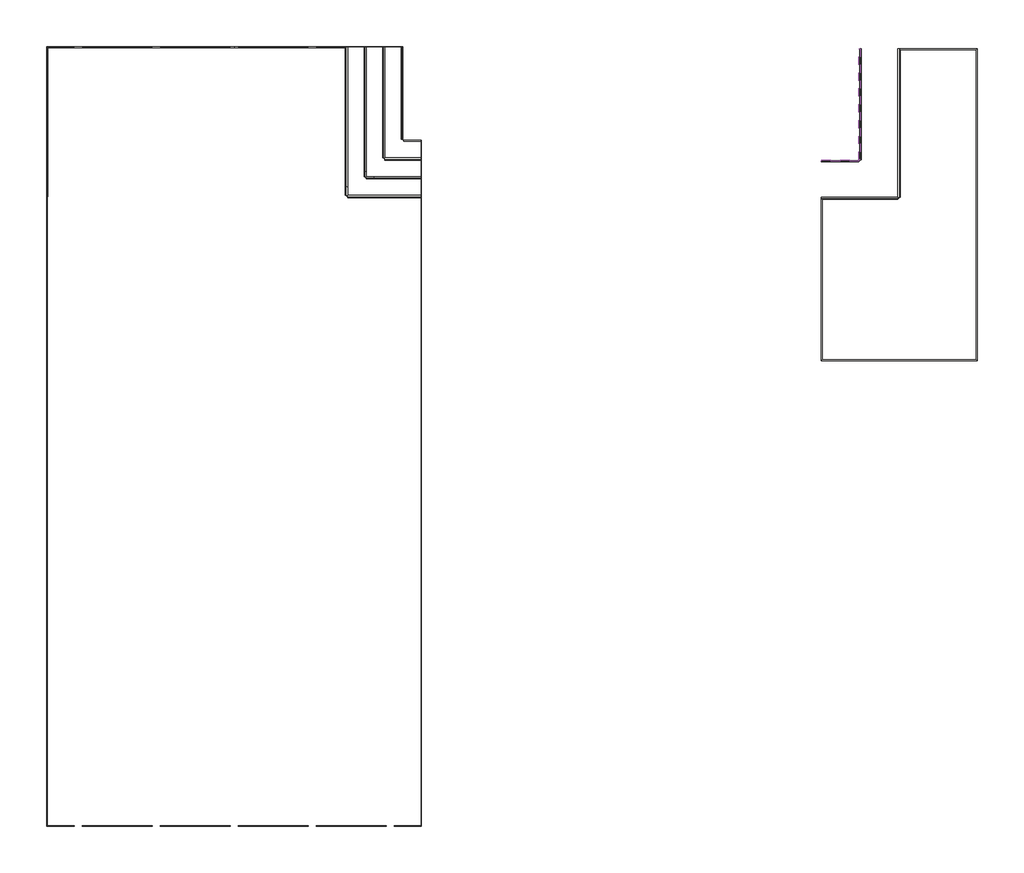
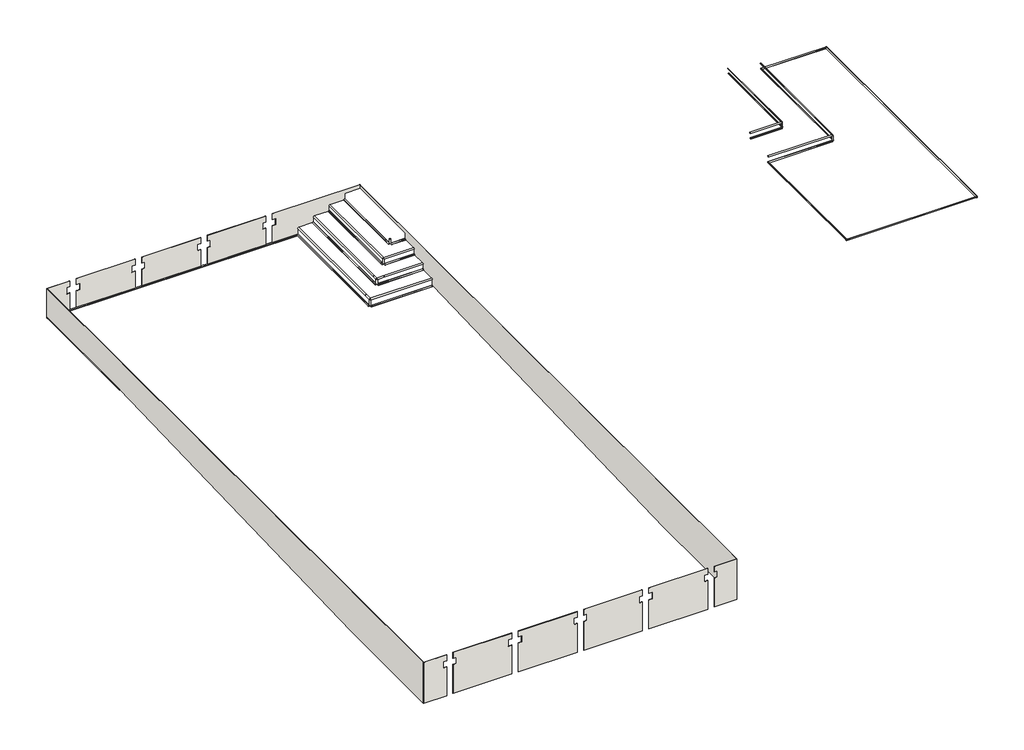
# One storey: 42 slabs, 4 walls.
"""IFC4 building model written with IfcOpenShell, lengths in millimetres."""

from ifc_helpers import new_model, si_unit, frame, origin, place, context, project, spatial, polyline, circle_curve, outline, extrude, faceted_brep, transform, mapped, element, save
from ifc_brep_helpers import plane_surface, revolved_surface, advanced_brep
from components import slab_68191908, slab_0b7f0033, slab_426d9eff, slab_d9ea31a1, slab_8877062a, slab_78a21326, slab_76e353b1, slab_188b37af, slab_594135eb, slab_b2810ed7, slab_a58539a0, slab_c8dc17a9, slab_b4be717a, slab_a5006e50, slab_b4716e6a, slab_d9e7cd34, slab_4b10cbd3, slab_bd4ad2bb, slab_5eb582c5, slab_a584c216, slab_de9ef0ad, slab_e5be7060, slab_870bf23e, slab_de703868, slab_17efec83, slab_f88066db, slab_389d30d9, slab_20e46eeb, slab_4c87a440, slab_b74d65db, slab_c2029d90, pieza_112_aqua_blanco_liso_c1875763, pieza_112_aqua_blanco_liso_16c1217e, pieza_112_aqua_blanco_liso_2d5796d6, pieza_112_aqua_blanco_liso_455163e1, pieza_112_aqua_blanco_liso_b51737e8, pieza_112_aqua_blanco_liso_a29e3cf4, pieza_112_aqua_blanco_liso_38657134

model = new_model("IFC4")

# Units and contexts
model_context = context("Model", 3, world=origin())
ifc_project = project(units=[si_unit("LENGTHUNIT", "METRE", prefix="MILLI")], contexts=[model_context])

# Site, building, storey
site = spatial("IfcSite", under=ifc_project)
building = spatial("IfcBuilding", under=site)
storey = spatial("IfcBuildingStorey", under=building, Name="3_NFondo1P1 -1.50", Elevation=-1500.0)

# Slabs
placement = place(None, origin())
slab_shape = slab_68191908(model_context)
element("IfcSlab", 1, ObjectType="ROSA GRES_112 : Pieza 112_Aqua_Plomo_Liso", at=placement, inside=storey, context=model_context, shape_type="MappedRepresentation", body=[
    mapped(slab_shape, transform((20973.8701143, 19983.4044735, -709.9734114), x_axis=(-1.0, 0.0, 0.0), y_axis=(0.0, -1.0, 0.0), z_axis=(0.0, 0.0, 1.0))),
])
slab_2_shape = slab_0b7f0033(model_context)
element("IfcSlab", 2, ObjectType="ROSA GRES_112 : Pieza 112_Aqua_Plomo_Liso", at=placement, inside=storey, context=model_context, shape_type="MappedRepresentation", body=[
    mapped(slab_2_shape, transform((21003.8967029, 24783.4044735, -709.9734114), x_axis=(0.0, -1.0, 0.0), y_axis=(1.0, 0.0, 0.0), z_axis=(0.0, 0.0, 1.0))),
])
slab_3_shape = slab_426d9eff(model_context)
element("IfcSlab", 3, ObjectType="ROSA GRES_138 : Pieza 138_Aqua_Plomo_Anti-Slip", at=placement, inside=storey, context=model_context, shape_type="MappedRepresentation", body=[
    mapped(slab_3_shape, transform((5680.0677212, 21276.3926616, -490.0), x_axis=(-1.0, 0.0, 0.0), y_axis=(0.0, -1.0, 0.0), z_axis=(0.0, 0.0, 1.0))),
])
slab_4_shape = slab_d9ea31a1(model_context)
element("IfcSlab", 4, ObjectType="ROSA GRES_138 : Pieza 138_Aqua_Plomo_Anti-Slip", at=placement, inside=storey, context=model_context, shape_type="MappedRepresentation", body=[
    mapped(slab_4_shape, transform((4520.0677212, 24836.3926616, -490.0), x_axis=(0.0, -1.0, 0.0), y_axis=(0.0, 0.0, 1.0), z_axis=(-1.0, 0.0, 0.0))),
])
element("IfcSlab", 5, ObjectType="ROSA GRES_138 : Pieza 138_Aqua_Plomo_Anti-Slip", at=placement, inside=storey, context=model_context, shape_type="MappedRepresentation", body=[
    mapped(slab_4_shape, transform((19723.8701143, 21213.4310621, -265.0), x_axis=(0.0, 1.0, 0.0), y_axis=(0.0, 0.0, 1.0), z_axis=(1.0, 0.0, 0.0))),
])
slab_5_shape = slab_8877062a(model_context)
element("IfcSlab", 6, ObjectType="ROSA GRES_138 : Pieza 138_Aqua_Plomo_Anti-Slip", at=placement, inside=storey, context=model_context, shape_type="MappedRepresentation", body=[
    mapped(slab_5_shape, transform((4181.2009319, 20676.3926616, -740.0), x_axis=(1.0, 0.0, 0.0), y_axis=(0.0, 0.0, 1.0), z_axis=(0.0, -1.0, 0.0))),
])
slab_6_shape = slab_78a21326(model_context)
element("IfcSlab", 7, ObjectType="ROSA GRES_138 : Pieza 138_Aqua_Plomo_Anti-Slip", at=placement, inside=storey, context=model_context, shape_type="MappedRepresentation", body=[
    mapped(slab_6_shape, transform((3920.0677212, 20676.3926616, -740.0), x_axis=(1.0, 0.0, 0.0), y_axis=(0.0, 0.0, 1.0), z_axis=(0.0, -1.0, 0.0))),
])
slab_7_shape = slab_76e353b1(model_context)
element("IfcSlab", 8, ObjectType="ROSA GRES_138 : Pieza 138_Aqua_Plomo_Anti-Slip", at=placement, inside=storey, context=model_context, shape_type="MappedRepresentation", body=[
    mapped(slab_7_shape, transform((3320.0677212, 20076.3926616, -990.0), x_axis=(1.0, 0.0, 0.0), y_axis=(0.0, 0.0, 1.0), z_axis=(0.0, -1.0, 0.0))),
])
slab_8_shape = slab_188b37af(model_context)
element("IfcSlab", 9, ObjectType="ROSA GRES_138 : Pieza 138_Aqua_Plomo_Anti-Slip", at=placement, inside=storey, context=model_context, shape_type="MappedRepresentation", body=[
    mapped(slab_8_shape, transform((3920.0677212, 20846.3926616, -740.0), x_axis=(0.0, 1.0, 0.0), y_axis=(-1.0, 0.0, 0.0), z_axis=(0.0, 0.0, 1.0))),
])
slab_9_shape = slab_594135eb(model_context)
element("IfcSlab", 10, ObjectType="ROSA GRES_138 : Pieza 138_Aqua_Plomo_Anti-Slip", at=placement, inside=storey, context=model_context, shape_type="MappedRepresentation", body=[
    mapped(slab_9_shape, transform((3920.0677212, 20676.3926616, -740.0), x_axis=(0.0, 1.0, 0.0), y_axis=(-1.0, 0.0, 0.0), z_axis=(0.0, 0.0, 1.0))),
])
slab_10_shape = slab_b2810ed7(model_context)
element("IfcSlab", 11, ObjectType="ROSA GRES_138 : Pieza 138_Aqua_Plomo_Anti-Slip", at=placement, inside=storey, context=model_context, shape_type="MappedRepresentation", body=[
    mapped(slab_10_shape, transform((3320.0677212, 20344.8918276, -990.0), x_axis=(0.0, 1.0, 0.0), y_axis=(-1.0, 0.0, 0.0), z_axis=(0.0, 0.0, 1.0))),
])
slab_11_shape = slab_a58539a0(model_context)
element("IfcSlab", 12, ObjectType="ROSA GRES_138 : Pieza 138_Aqua_Plomo_Anti-Slip", at=placement, inside=storey, context=model_context, shape_type="MappedRepresentation", body=[
    mapped(slab_11_shape, transform((3320.0677212, 20076.3926616, -990.0), x_axis=(0.0, 1.0, 0.0), y_axis=(-1.0, 0.0, 0.0), z_axis=(0.0, 0.0, 1.0))),
])
slab_12_shape = slab_c8dc17a9(model_context)
element("IfcSlab", 13, ObjectType="ROSA GRES_138 : Pieza 138_Aqua_Plomo_Anti-Slip", at=placement, inside=storey, context=model_context, shape_type="MappedRepresentation", body=[
    mapped(slab_12_shape, transform((18513.8701143, 20013.4310621, -490.0), x_axis=(1.0, 0.0, 0.0), y_axis=(0.0, 0.0, 1.0), z_axis=(0.0, -1.0, 0.0))),
])
slab_13_shape = slab_b4be717a(model_context)
element("IfcSlab", 14, ObjectType="ROSA GRES_138 : Pieza 138_Aqua_Plomo_Anti-Slip", at=placement, inside=storey, context=model_context, shape_type="MappedRepresentation", body=[
    mapped(slab_13_shape, transform((20973.8701143, 20013.4310621, -490.0), x_axis=(0.0, 1.0, 0.0), y_axis=(0.0, 0.0, 1.0), z_axis=(1.0, 0.0, 0.0))),
])
slab_14_shape = slab_a5006e50(model_context)
element("IfcSlab", 15, ObjectType="ROSA GRES_138 : Pieza 138_Aqua_Plomo_Anti-Slip", at=placement, inside=storey, context=model_context, shape_type="MappedRepresentation", body=[
    mapped(slab_14_shape, transform((18513.8701143, 21213.4310621, -265.0), x_axis=(1.0, 0.0, 0.0), y_axis=(0.0, 0.0, 1.0), z_axis=(0.0, -1.0, 0.0))),
])
slab_15_shape = slab_b4716e6a(model_context)
element("IfcSlab", 16, ObjectType="ROSA GRES_112 : Pieza 112_Aqua_Plomo_Liso", at=placement, inside=storey, context=model_context, shape_type="MappedRepresentation", body=[
    mapped(slab_15_shape, transform((3290.0411326, 20076.3926616, -1259.9734114), x_axis=(0.0, 1.0, 0.0), y_axis=(-1.0, 0.0, 0.0), z_axis=(0.0, 0.0, 1.0))),
])
slab_16_shape = slab_d9e7cd34(model_context)
element("IfcSlab", 17, ObjectType="ROSA GRES_112 : Pieza 112_Aqua_Plomo_Liso", at=placement, inside=storey, context=model_context, shape_type="MappedRepresentation", body=[
    mapped(slab_16_shape, transform((5680.0677212, 20044.3134327, -1259.95975), x_axis=(-1.0, 0.0, 0.0), y_axis=(0.0, -1.0, 0.0), z_axis=(0.0, 0.0, 1.0))),
])
slab_17_shape = slab_4b10cbd3(model_context)
element("IfcSlab", 18, ObjectType="ROSA GRES_112 : Pieza 112_Aqua_Plomo_Liso", at=placement, inside=storey, context=model_context, shape_type="MappedRepresentation", body=[
    mapped(slab_17_shape, transform((3889.0677212, 20676.3926616, -959.9734114), x_axis=(0.0, 1.0, 0.0), y_axis=(-1.0, 0.0, 0.0), z_axis=(0.0, 0.0, 1.0))),
])
slab_18_shape = slab_bd4ad2bb(model_context)
element("IfcSlab", 19, ObjectType="ROSA GRES_112 : Pieza 112_Aqua_Plomo_Liso", at=placement, inside=storey, context=model_context, shape_type="MappedRepresentation", body=[
    mapped(slab_18_shape, transform((4490.0411326, 21346.0157313, -709.9734114), x_axis=(0.0, 1.0, 0.0), y_axis=(-1.0, 0.0, 0.0), z_axis=(0.0, 0.0, 1.0))),
])
slab_19_shape = slab_5eb582c5(model_context)
element("IfcSlab", 20, ObjectType="ROSA GRES_112 : Pieza 112_Aqua_Plomo_Liso", at=placement, inside=storey, context=model_context, shape_type="MappedRepresentation", body=[
    mapped(slab_19_shape, transform((5089.0677212, 21876.290177, -459.9734114), x_axis=(0.0, 1.0, 0.0), y_axis=(-1.0, 0.0, 0.0), z_axis=(0.0, 0.0, 1.0))),
])
slab_20_shape = slab_a584c216(model_context)
element("IfcSlab", 21, ObjectType="ROSA GRES_112 : Pieza 112_Aqua_Plomo_Liso", at=placement, inside=storey, context=model_context, shape_type="MappedRepresentation", body=[
    mapped(slab_20_shape, transform((5680.0677212, 21846.3660731, -459.9734114), x_axis=(-1.0, 0.0, 0.0), y_axis=(0.0, -1.0, 0.0), z_axis=(0.0, 0.0, 1.0))),
])
slab_21_shape = slab_de9ef0ad(model_context)
element("IfcSlab", 22, ObjectType="ROSA GRES_112 : Pieza 112_Aqua_Plomo_Liso", at=placement, inside=storey, context=model_context, shape_type="MappedRepresentation", body=[
    mapped(slab_21_shape, transform((5684.5677212, 21246.3660731, -709.9734114), x_axis=(-1.0, 0.0, 0.0), y_axis=(0.0, -1.0, 0.0), z_axis=(0.0, 0.0, 1.0))),
])
slab_22_shape = slab_e5be7060(model_context)
element("IfcSlab", 23, ObjectType="ROSA GRES_112 : Pieza 112_Aqua_Plomo_Liso", at=placement, inside=storey, context=model_context, shape_type="MappedRepresentation", body=[
    mapped(slab_22_shape, transform((5680.0677212, 20646.3660731, -959.9734114), x_axis=(-1.0, 0.0, 0.0), y_axis=(0.0, -1.0, 0.0), z_axis=(0.0, 0.0, 1.0))),
])
slab_23_shape = slab_870bf23e(model_context)
element("IfcSlab", 24, ObjectType="ROSA GRES_112 : Pieza 112_Aqua_Plomo_Liso", at=placement, inside=storey, context=model_context, shape_type="MappedRepresentation", body=[
    mapped(slab_23_shape, transform((3290.0411326, 20095.811914, -1259.9734114), x_axis=(0.0, 1.0, 0.0), y_axis=(-1.0, 0.0, 0.0), z_axis=(0.0, 0.0, 1.0))),
])
slab_24_shape = slab_de703868(model_context)
element("IfcSlab", 25, ObjectType="ROSA GRES_112 : Pieza 112_Aqua_Plomo_Liso", at=placement, inside=storey, context=model_context, shape_type="MappedRepresentation", body=[
    mapped(slab_24_shape, transform((3889.0677212, 20845.0085015, -959.9734114), x_axis=(0.0, 1.0, 0.0), y_axis=(-1.0, 0.0, 0.0), z_axis=(0.0, 0.0, 1.0))),
])
slab_25_shape = slab_17efec83(model_context)
element("IfcSlab", 26, ObjectType="ROSA GRES_112 : Pieza 112_Aqua_Plomo_Liso", at=placement, inside=storey, context=model_context, shape_type="MappedRepresentation", body=[
    mapped(slab_25_shape, transform((4490.0411326, 21275.5274858, -709.9734114), x_axis=(0.0, 1.0, 0.0), y_axis=(-1.0, 0.0, 0.0), z_axis=(0.0, 0.0, 1.0))),
])
slab_26_shape = slab_f88066db(model_context)
element("IfcSlab", 27, ObjectType="ROSA GRES_112 : Pieza 112_Aqua_Plomo_Liso", at=placement, inside=storey, context=model_context, shape_type="MappedRepresentation", body=[
    mapped(slab_26_shape, transform((5089.0677212, 22094.8592245, -459.9734114), x_axis=(0.0, 1.0, 0.0), y_axis=(-1.0, 0.0, 0.0), z_axis=(0.0, 0.0, 1.0))),
])
slab_27_shape = slab_389d30d9(model_context)
element("IfcSlab", 28, ObjectType="ROSA GRES_138 : Pieza 138_Aqua_Plomo_Anti-Slip", at=placement, inside=storey, context=model_context, shape_type="MappedRepresentation", body=[
    mapped(slab_27_shape, transform((3920.0677212, 20676.3926616, -920.0), x_axis=(0.0, 0.0, 1.0), y_axis=(-1.0, 0.0, 0.0), z_axis=(0.0, -1.0, 0.0))),
])
element("IfcSlab", 29, ObjectType="ROSA GRES_138 : Pieza 138_Aqua_Plomo_Anti-Slip", at=placement, inside=storey, context=model_context, shape_type="MappedRepresentation", body=[
    mapped(slab_27_shape, transform((4520.0677212, 21276.3926616, -490.0), x_axis=(0.0, 0.0, -1.0), y_axis=(0.0, -1.0, 0.0), z_axis=(-1.0, 0.0, 0.0))),
])
element("IfcSlab", 30, ObjectType="ROSA GRES_138 : Pieza 138_Aqua_Plomo_Anti-Slip", at=placement, inside=storey, context=model_context, shape_type="MappedRepresentation", body=[
    mapped(slab_27_shape, transform((5120.1927212, 21876.3926616, -420.0), x_axis=(0.0, 0.0, 1.0), y_axis=(-1.0, 0.0, 0.0), z_axis=(0.0, -1.0, 0.0))),
])
element("IfcSlab", 31, ObjectType="ROSA GRES_138 : Pieza 138_Aqua_Plomo_Anti-Slip", at=placement, inside=storey, context=model_context, shape_type="MappedRepresentation", body=[
    mapped(slab_27_shape, transform((20973.8701143, 20013.4310621, -490.0), x_axis=(0.0, 0.0, -1.0), y_axis=(1.0, 0.0, 0.0), z_axis=(0.0, -1.0, 0.0))),
])
slab_28_shape = slab_20e46eeb(model_context)
element("IfcSlab", 32, ObjectType="ROSA GRES_138 : Pieza 138_Aqua_Plomo_Anti-Slip", at=placement, inside=storey, context=model_context, shape_type="MappedRepresentation", body=[
    mapped(slab_28_shape, transform((3320.0677212, 20076.3926616, -1219.95975), x_axis=(0.0, 0.0, 1.0), y_axis=(-1.0, 0.0, 0.0), z_axis=(0.0, -1.0, 0.0))),
])
slab_29_shape = slab_4c87a440(model_context)
element("IfcSlab", 33, ObjectType="ROSA GRES_112 : Pieza 112_Aqua_Plomo_Liso", at=placement, inside=storey, context=model_context, shape_type="MappedRepresentation", body=[
    mapped(slab_29_shape, transform((19753.8967029, 24773.4310621, -459.9734114), x_axis=(0.0, -1.0, 0.0), y_axis=(1.0, 0.0, 0.0), z_axis=(0.0, 0.0, 1.0))),
])
slab_30_shape = slab_b74d65db(model_context)
element("IfcSlab", 34, ObjectType="ROSA GRES_112 : Pieza 112_Aqua_Plomo_Liso", at=placement, inside=storey, context=model_context, shape_type="MappedRepresentation", body=[
    mapped(slab_30_shape, transform((19723.8701143, 21183.4044735, -459.9734114), x_axis=(-1.0, 0.0, 0.0), y_axis=(0.0, -1.0, 0.0), z_axis=(0.0, 0.0, 1.0))),
])
slab_31_shape = slab_c2029d90(model_context)
element("IfcSlab", 35, ObjectType="ROSA GRES_138 : Pieza 138_Aqua_Plomo_Anti-Slip", at=placement, inside=storey, context=model_context, shape_type="MappedRepresentation", body=[
    mapped(slab_31_shape, transform((19723.8701143, 21213.4310621, -265.0), x_axis=(0.0, 0.0, -1.0), y_axis=(1.0, 0.0, 0.0), z_axis=(0.0, -1.0, 0.0))),
])
pieza_112_aqua_blanco_liso_shape = pieza_112_aqua_blanco_liso_c1875763(model_context)
element("IfcSlab", 36, ObjectType="ROSA GRES_112 : Pieza 112_Aqua_Blanco_Liso", at=placement, inside=storey, context=model_context, shape_type="MappedRepresentation", body=[
    mapped(pieza_112_aqua_blanco_liso_shape, transform((23523.8435258, 24783.4044735, -709.9734114), x_axis=(-1.0, 0.0, 0.0), y_axis=(0.0, -1.0, 0.0), z_axis=(0.0, 0.0, 1.0))),
])
pieza_112_aqua_blanco_liso_2_shape = pieza_112_aqua_blanco_liso_16c1217e(model_context)
element("IfcSlab", 37, ObjectType="ROSA GRES_112 : Pieza 112_Aqua_Blanco_Liso", at=placement, inside=storey, context=model_context, shape_type="MappedRepresentation", body=[
    mapped(pieza_112_aqua_blanco_liso_2_shape, transform((23523.8435258, 14763.4576506, -709.9734114), x_axis=(0.0, 1.0, 0.0), y_axis=(-1.0, 0.0, 0.0), z_axis=(0.0, 0.0, 1.0))),
])
pieza_112_aqua_blanco_liso_3_shape = pieza_112_aqua_blanco_liso_2d5796d6(model_context)
element("IfcSlab", 38, ObjectType="ROSA GRES_112 : Pieza 112_Aqua_Blanco_Liso", at=placement, inside=storey, context=model_context, shape_type="MappedRepresentation", body=[
    mapped(pieza_112_aqua_blanco_liso_3_shape, transform((18505.6788479, 14763.4576506, -709.9734114), x_axis=(1.0, 0.0, 0.0), y_axis=(0.0, 1.0, 0.0), z_axis=(0.0, 0.0, 1.0))),
])
pieza_112_aqua_blanco_liso_4_shape = pieza_112_aqua_blanco_liso_455163e1(model_context)
element("IfcSlab", 39, ObjectType="ROSA GRES_112 : Pieza 112_Aqua_Blanco_Liso", at=placement, inside=storey, context=model_context, shape_type="MappedRepresentation", body=[
    mapped(pieza_112_aqua_blanco_liso_4_shape, transform((18505.6788479, 19983.4044735, -709.9734114), x_axis=(0.0, -1.0, 0.0), y_axis=(1.0, 0.0, 0.0), z_axis=(0.0, 0.0, 1.0))),
])
pieza_112_aqua_blanco_liso_5_shape = pieza_112_aqua_blanco_liso_b51737e8(model_context)
element("IfcSlab", 40, ObjectType="ROSA GRES_112 : Pieza 112_Aqua_Blanco_Liso", at=placement, inside=storey, context=model_context, shape_type="MappedRepresentation", body=[
    mapped(pieza_112_aqua_blanco_liso_5_shape, transform((-310.9322788, 24846.3660731, -1259.9734114), x_axis=(-1.0, 0.0, 0.0), y_axis=(0.0, -1.0, 0.0), z_axis=(0.0, 0.0, 1.0))),
])
pieza_112_aqua_blanco_liso_6_shape = pieza_112_aqua_blanco_liso_a29e3cf4(model_context)
element("IfcSlab", 41, ObjectType="ROSA GRES_112 : Pieza 112_Aqua_Blanco_Liso", at=placement, inside=storey, context=model_context, shape_type="MappedRepresentation", body=[
    mapped(pieza_112_aqua_blanco_liso_6_shape, transform((-6329.9056903, 20025.5143361, -1259.9734114), x_axis=(0.0, 1.0, 0.0), y_axis=(-1.0, 0.0, 0.0), z_axis=(0.0, 0.0, 1.0))),
])
pieza_112_aqua_blanco_liso_7_shape = pieza_112_aqua_blanco_liso_38657134(model_context)
element("IfcSlab", 42, ObjectType="ROSA GRES_112 : Pieza 112_Aqua_Blanco_Liso", at=placement, inside=storey, context=model_context, shape_type="MappedRepresentation", body=[
    mapped(pieza_112_aqua_blanco_liso_7_shape, transform((3290.0411326, 24846.3660731, -1259.9734114), x_axis=(-1.0, 0.0, 0.0), y_axis=(0.0, -1.0, 0.0), z_axis=(0.0, 0.0, 1.0))),
])

# Walls
element("IfcWall", 43, ObjectType="Pieza 244 G1_Patrón Recto_Aqua_Blanco_Liso", at=placement, inside=storey, context=model_context, shape_type="SolidModel", body=[
    advanced_brep(
    [(5689.0677212, 24845.3926616, -200.0), (5120.0677212, 24845.3926616, -200.0), (5080.0677212, 24845.3926616, -240.0), (5080.0677212, 24845.3926616, -450.0), (4520.0677212, 24845.3926616, -450.0), (4480.0677212, 24845.3926616, -490.0), (4480.0677212, 24845.3926616, -700.0), (3920.0677212, 24845.3926616, -700.0), (3880.0677212, 24845.3926616, -740.0), (3880.0677212, 24845.3926616, -950.0), (3320.0677212, 24845.3926616, -950.0), (3280.0677212, 24845.3926616, -990.0), (3280.0677212, 24845.3926616, -1219.9734114), (2314.0677212, 24845.3926616, -1219.9734114), (2314.0677212, 24845.3926616, -550.0), (2439.0677212, 24845.3926616, -550.0), (2439.0677212, 24845.3926616, -300.0), (2314.0677212, 24845.3926616, -300.0), (2314.0677212, 24845.3926616, -61.5045114), (5689.0677212, 24845.3926616, -61.5045114), (5689.0677212, 24836.3926616, -200.0), (5689.0677212, 24836.3926616, -70.0), (5689.0677212, 24836.3926616, -61.5045114), (2314.0677212, 24836.3926616, -61.5045114), (2314.0677212, 24836.3926616, -300.0), (2439.0677212, 24836.3926616, -300.0), (2439.0677212, 24836.3926616, -550.0), (2314.0677212, 24836.3926616, -550.0), (2314.0677212, 24836.3926616, -1219.9734114), (3280.0677212, 24836.3926616, -1219.9734114), (3280.0677212, 24836.3926616, -990.0), (3320.0677212, 24836.3926616, -950.0), (3880.0677212, 24836.3926616, -950.0), (3880.0677212, 24836.3926616, -740.0), (3920.0677212, 24836.3926616, -700.0), (4480.0677212, 24836.3926616, -700.0), (4480.0677212, 24836.3926616, -490.0), (4520.0677212, 24836.3926616, -450.0), (5080.0677212, 24836.3926616, -450.0), (5080.0677212, 24836.3926616, -240.0), (5120.0677212, 24836.3926616, -200.0), (5680.0677212, 24836.3926616, -200.0)],
    [
        (0, 1),
        (1, 2, circle_curve(frame((5120.0677212, 24845.3926616, -240.0), z_axis=(0.0, -1.0, 0.0), x_axis=(1.0, 0.0, 0.0)), 40.0)),
        (2, 3),
        (3, 4),
        (4, 5, circle_curve(frame((4520.0677212, 24845.3926616, -490.0), z_axis=(0.0, -1.0, 0.0), x_axis=(1.0, 0.0, 0.0)), 40.0)),
        (5, 6),
        (6, 7),
        (7, 8, circle_curve(frame((3920.0677212, 24845.3926616, -740.0), z_axis=(0.0, -1.0, 0.0), x_axis=(1.0, 0.0, 0.0)), 40.0)),
        (8, 9),
        (9, 10),
        (10, 11, circle_curve(frame((3320.0677212, 24845.3926616, -990.0), z_axis=(0.0, -1.0, 0.0), x_axis=(1.0, 0.0, 0.0)), 40.0)),
        (11, 12),
        (12, 13),
        (13, 14),
        (14, 15),
        (15, 16),
        (16, 17),
        (17, 18),
        (18, 19),
        (19, 0),
        (20, 21),
        (21, 22),
        (22, 23),
        (23, 24),
        (24, 25),
        (25, 26),
        (26, 27),
        (27, 28),
        (28, 29),
        (29, 30),
        (30, 31, circle_curve(frame((3320.0677212, 24836.3926616, -990.0), z_axis=(0.0, 1.0, 0.0), x_axis=(1.0, 0.0, 0.0)), 40.0)),
        (31, 32),
        (32, 33),
        (33, 34, circle_curve(frame((3920.0677212, 24836.3926616, -740.0), z_axis=(0.0, 1.0, 0.0), x_axis=(1.0, 0.0, 0.0)), 40.0)),
        (34, 35),
        (35, 36),
        (36, 37, circle_curve(frame((4520.0677212, 24836.3926616, -490.0), z_axis=(0.0, 1.0, 0.0), x_axis=(1.0, 0.0, 0.0)), 40.0)),
        (37, 38),
        (38, 39),
        (39, 40, circle_curve(frame((5120.0677212, 24836.3926616, -240.0), z_axis=(0.0, 1.0, 0.0), x_axis=(1.0, 0.0, 0.0)), 40.0)),
        (40, 41),
        (41, 20),
        (19, 22),
        (20, 0),
        (40, 1),
        (39, 2),
        (38, 3),
        (37, 4),
        (36, 5),
        (35, 6),
        (34, 7),
        (33, 8),
        (32, 9),
        (31, 10),
        (30, 11),
        (29, 12),
        (28, 13),
        (18, 23),
        (27, 14),
        (26, 15),
        (25, 16),
        (24, 17),
    ],
    [
        plane_surface(frame((5680.0677212, 24845.3926616, -200.0), z_axis=(0.0, 1.0, 0.0), x_axis=(-1.0, 0.0, 0.0))),
        plane_surface(frame((5680.0677212, 24836.3926616, -200.0), z_axis=(0.0, -1.0, 0.0), x_axis=(1.0, 0.0, 0.0))),
        plane_surface(frame((5689.0677212, -163.6073384, -1719.9734114), z_axis=(1.0, 0.0, 0.0), x_axis=(0.0, 1.0, 0.0))),
        plane_surface(frame((5684.5677212, 24845.3926616, -200.0), z_axis=(0.0, 0.0, -1.0), x_axis=(0.0, -1.0, 0.0))),
        revolved_surface(polyline([(5160.0677212, 24836.3926616, -240.0), (5160.0677212, 24845.3926616, -240.0)]), (5120.0677212, 24836.3926616, -240.0), (0.0, -1.0, 0.0)),
        plane_surface(frame((5080.0677212, 24845.3926616, -240.0), z_axis=(1.0, 0.0, 0.0), x_axis=(0.0, -1.0, 0.0))),
        plane_surface(frame((5080.0677212, 24845.3926616, -450.0), z_axis=(0.0, 0.0, -1.0), x_axis=(0.0, -1.0, 0.0))),
        revolved_surface(polyline([(4560.0677212, 24836.3926616, -490.0), (4560.0677212, 24845.3926616, -490.0)]), (4520.0677212, 24836.3926616, -490.0), (0.0, -1.0, 0.0)),
        plane_surface(frame((4480.0677212, 24845.3926616, -490.0), z_axis=(1.0, 0.0, 0.0), x_axis=(0.0, -1.0, 0.0))),
        plane_surface(frame((4480.0677212, 24845.3926616, -700.0), z_axis=(0.0, 0.0, -1.0), x_axis=(0.0, -1.0, 0.0))),
        revolved_surface(polyline([(3960.0677212, 24836.3926616, -740.0), (3960.0677212, 24845.3926616, -740.0)]), (3920.0677212, 24836.3926616, -740.0), (0.0, -1.0, 0.0)),
        plane_surface(frame((3880.0677212, 24845.3926616, -740.0), z_axis=(1.0, 0.0, 0.0), x_axis=(0.0, -1.0, 0.0))),
        plane_surface(frame((3880.0677212, 24845.3926616, -950.0), z_axis=(0.0, 0.0, -1.0), x_axis=(0.0, -1.0, 0.0))),
        revolved_surface(polyline([(3360.0677212, 24836.3926616, -990.0), (3360.0677212, 24845.3926616, -990.0)]), (3320.0677212, 24836.3926616, -990.0), (0.0, -1.0, 0.0)),
        plane_surface(frame((3280.0677212, 24845.3926616, -990.0), z_axis=(1.0, 0.0, 0.0), x_axis=(0.0, -1.0, 0.0))),
        plane_surface(frame((3280.0677212, 24845.3926616, -1219.9734114), z_axis=(0.0, 0.0, -1.0), x_axis=(0.0, -1.0, 0.0))),
        plane_surface(frame((2314.0677212, 24845.3926616, -61.5045114), z_axis=(0.0, 0.0, 1.0), x_axis=(0.0, -1.0, 0.0))),
        plane_surface(frame((2314.0677212, 24845.3926616, -1219.9734114), z_axis=(-1.0, 0.0, 0.0), x_axis=(0.0, -1.0, 0.0))),
        plane_surface(frame((2314.0677212, 24845.3926616, -550.0), z_axis=(0.0, 0.0, 1.0), x_axis=(0.0, -1.0, 0.0))),
        plane_surface(frame((2439.0677212, 24845.3926616, -550.0), z_axis=(-1.0, 0.0, 0.0), x_axis=(0.0, -1.0, 0.0))),
        plane_surface(frame((2439.0677212, 24845.3926616, -300.0), z_axis=(0.0, 0.0, -1.0), x_axis=(0.0, -1.0, 0.0))),
        plane_surface(frame((2314.0677212, 24845.3926616, -300.0), z_axis=(-1.0, 0.0, 0.0), x_axis=(0.0, -1.0, 0.0))),
    ],
    [
        (0, [[1, 2, 3, 4, 5, 6, 7, 8, 9, 10, 11, 12, 13, 14, 15, 16, 17, 18, 19, 20]]),
        (1, [[21, 22, 23, 24, 25, 26, 27, 28, 29, 30, 31, 32, 33, 34, 35, 36, 37, 38, 39, 40, 41, 42]]),
        (2, [[-20, 43, -22, -21, 44]]),
        (3, [[-1, -44, -42, -41, 45]]),
        (4, [[-2, -45, -40, 46]]),
        (5, [[-3, -46, -39, 47]]),
        (6, [[-4, -47, -38, 48]]),
        (7, [[-5, -48, -37, 49]]),
        (8, [[-6, -49, -36, 50]]),
        (9, [[-7, -50, -35, 51]]),
        (10, [[-8, -51, -34, 52]]),
        (11, [[-9, -52, -33, 53]]),
        (12, [[-10, -53, -32, 54]]),
        (13, [[-11, -54, -31, 55]]),
        (14, [[-12, -55, -30, 56]]),
        (15, [[-13, -56, -29, 57]]),
        (16, [[-19, 58, -23, -43]]),
        (17, [[-14, -57, -28, 59]]),
        (18, [[-15, -59, -27, 60]]),
        (19, [[-16, -60, -26, 61]]),
        (20, [[-17, -61, -25, 62]]),
        (21, [[-18, -62, -24, -58]]),
    ],
),
    faceted_brep([(-6319.9322788, 24845.3926616, -1219.9734114), (-6319.9322788, 24845.3926616, -70.0), (-5444.9322788, 24845.3926616, -70.0), (-5444.9322788, 24845.3926616, -300.0), (-5569.9322788, 24845.3926616, -300.0), (-5569.9322788, 24845.3926616, -550.0), (-5444.9322788, 24845.3926616, -550.0), (-5444.9322788, 24845.3926616, -1219.9734114), (-6319.9322788, 24836.3926616, -1219.9734114), (-5444.9322788, 24836.3926616, -1219.9734114), (-5444.9322788, 24836.3926616, -550.0), (-5569.9322788, 24836.3926616, -550.0), (-5569.9322788, 24836.3926616, -300.0), (-5444.9322788, 24836.3926616, -300.0), (-5444.9322788, 24836.3926616, -70.0), (-6319.9322788, 24836.3926616, -70.0)], [[[0, 1, 2, 3, 4, 5, 6, 7]], [[8, 9, 10, 11, 12, 13, 14, 15]], [[0, 7, 9, 8]], [[2, 1, 15, 14]], [[1, 0, 8, 15]], [[3, 2, 14, 13]], [[4, 3, 13, 12]], [[5, 4, 12, 11]], [[6, 5, 11, 10]], [[7, 6, 10, 9]]]),
    faceted_brep([(-5194.9322788, 24845.3926616, -550.0), (-5069.9322788, 24845.3926616, -550.0), (-5069.9322788, 24845.3926616, -300.0), (-5194.9322788, 24845.3926616, -300.0), (-5194.9322788, 24845.3926616, -61.5045114), (-2944.9322788, 24845.3926616, -61.5045114), (-2944.9322788, 24845.3926616, -300.0), (-3069.9322788, 24845.3926616, -300.0), (-3069.9322788, 24845.3926616, -550.0), (-2944.9322788, 24845.3926616, -550.0), (-2944.9322788, 24845.3926616, -1219.9734114), (-5194.9322788, 24845.3926616, -1219.9734114), (-5194.9322788, 24836.3926616, -550.0), (-5194.9322788, 24836.3926616, -1219.9734114), (-2944.9322788, 24836.3926616, -1219.9734114), (-2944.9322788, 24836.3926616, -550.0), (-3069.9322788, 24836.3926616, -550.0), (-3069.9322788, 24836.3926616, -300.0), (-2944.9322788, 24836.3926616, -300.0), (-2944.9322788, 24836.3926616, -61.5045114), (-5194.9322788, 24836.3926616, -61.5045114), (-5194.9322788, 24836.3926616, -300.0), (-5069.9322788, 24836.3926616, -300.0), (-5069.9322788, 24836.3926616, -550.0)], [[[0, 1, 2, 3, 4, 5, 6, 7, 8, 9, 10, 11]], [[12, 13, 14, 15, 16, 17, 18, 19, 20, 21, 22, 23]], [[5, 4, 20, 19]], [[11, 10, 14, 13]], [[0, 11, 13, 12]], [[1, 0, 12, 23]], [[2, 1, 23, 22]], [[3, 2, 22, 21]], [[4, 3, 21, 20]], [[6, 5, 19, 18]], [[7, 6, 18, 17]], [[8, 7, 17, 16]], [[9, 8, 16, 15]], [[10, 9, 15, 14]]]),
    faceted_brep([(-2694.9322788, 24845.3926616, -1219.9734114), (-2694.9322788, 24845.3926616, -550.0), (-2569.9322788, 24845.3926616, -550.0), (-2569.9322788, 24845.3926616, -300.0), (-2694.9322788, 24845.3926616, -300.0), (-2694.9322788, 24845.3926616, -61.5045114), (-435.9322788, 24845.3926616, -61.5045114), (-435.9322788, 24845.3926616, -300.0), (-560.9322788, 24845.3926616, -300.0), (-560.9322788, 24845.3926616, -550.0), (-435.9322788, 24845.3926616, -550.0), (-435.9322788, 24845.3926616, -1219.9734114), (-2694.9322788, 24836.3926616, -1219.9734114), (-435.9322788, 24836.3926616, -1219.9734114), (-435.9322788, 24836.3926616, -550.0), (-560.9322788, 24836.3926616, -550.0), (-560.9322788, 24836.3926616, -300.0), (-435.9322788, 24836.3926616, -300.0), (-435.9322788, 24836.3926616, -61.5045114), (-2694.9322788, 24836.3926616, -61.5045114), (-2694.9322788, 24836.3926616, -300.0), (-2569.9322788, 24836.3926616, -300.0), (-2569.9322788, 24836.3926616, -550.0), (-2694.9322788, 24836.3926616, -550.0)], [[[0, 1, 2, 3, 4, 5, 6, 7, 8, 9, 10, 11]], [[12, 13, 14, 15, 16, 17, 18, 19, 20, 21, 22, 23]], [[6, 5, 19, 18]], [[0, 11, 13, 12]], [[1, 0, 12, 23]], [[2, 1, 23, 22]], [[3, 2, 22, 21]], [[4, 3, 21, 20]], [[5, 4, 20, 19]], [[7, 6, 18, 17]], [[8, 7, 17, 16]], [[9, 8, 16, 15]], [[10, 9, 15, 14]], [[11, 10, 14, 13]]]),
    faceted_brep([(-185.9322788, 24845.3926616, -1219.9734114), (-185.9322788, 24845.3926616, -550.0), (-60.9322788, 24845.3926616, -550.0), (-60.9322788, 24845.3926616, -300.0), (-185.9322788, 24845.3926616, -300.0), (-185.9322788, 24845.3926616, -61.5045114), (2064.0677212, 24845.3926616, -61.5045114), (2064.0677212, 24845.3926616, -300.0), (1939.0677212, 24845.3926616, -300.0), (1939.0677212, 24845.3926616, -550.0), (2064.0677212, 24845.3926616, -550.0), (2064.0677212, 24845.3926616, -1219.9734114), (-185.9322788, 24836.3926616, -1219.9734114), (2064.0677212, 24836.3926616, -1219.9734114), (2064.0677212, 24836.3926616, -550.0), (1939.0677212, 24836.3926616, -550.0), (1939.0677212, 24836.3926616, -300.0), (2064.0677212, 24836.3926616, -300.0), (2064.0677212, 24836.3926616, -61.5045114), (-185.9322788, 24836.3926616, -61.5045114), (-185.9322788, 24836.3926616, -300.0), (-60.9322788, 24836.3926616, -300.0), (-60.9322788, 24836.3926616, -550.0), (-185.9322788, 24836.3926616, -550.0)], [[[0, 1, 2, 3, 4, 5, 6, 7, 8, 9, 10, 11]], [[12, 13, 14, 15, 16, 17, 18, 19, 20, 21, 22, 23]], [[6, 5, 19, 18]], [[0, 11, 13, 12]], [[1, 0, 12, 23]], [[2, 1, 23, 22]], [[3, 2, 22, 21]], [[4, 3, 21, 20]], [[5, 4, 20, 19]], [[7, 6, 18, 17]], [[8, 7, 17, 16]], [[9, 8, 16, 15]], [[10, 9, 15, 14]], [[11, 10, 14, 13]]]),
])
element("IfcWall", 44, ObjectType="Pieza 244 G1_Patrón Recto_Aqua_Blanco_Liso", at=placement, inside=storey, context=model_context, shape_type="AdvancedBrep", body=[
    advanced_brep(
    [(5689.0677212, -163.6073384, -1719.9734114), (5689.0677212, 4635.9053454, -1719.9734114), (5689.0677212, 20045.3926616, -1219.6653817), (5689.0677212, 20045.3926616, -964.7215507), (5689.0677212, 20076.3926616, -950.0), (5689.0677212, 20636.3926616, -950.0), (5689.0677212, 20636.3926616, -740.0), (5689.0677212, 20676.3926616, -700.0), (5689.0677212, 21234.9392681, -700.0), (5689.0677212, 21234.9392681, -496.8231223), (5689.0677212, 21279.3693584, -452.393032), (5689.0677212, 21836.3926616, -452.393032), (5689.0677212, 21836.3926616, -240.0), (5689.0677212, 21876.3926616, -200.0), (5689.0677212, 24836.3926616, -200.0), (5689.0677212, 24836.3926616, -70.0), (5689.0677212, -163.6073384, -70.0), (5680.0677212, -163.6073384, -1719.9734114), (5680.0677212, -163.6073384, -70.0), (5680.0677212, -154.6073384, -70.0), (5680.0677212, 24836.3926616, -70.0), (5680.0677212, 24836.3926616, -200.0), (5680.0677212, 21876.3926616, -200.0), (5680.0677212, 21836.3926616, -240.0), (5680.0677212, 21836.3926616, -452.393032), (5680.0677212, 21279.3693584, -452.393032), (5680.0677212, 21234.9392681, -496.8231223), (5680.0677212, 21234.9392681, -700.0), (5680.0677212, 20676.3926616, -700.0), (5680.0677212, 20636.3926616, -740.0), (5680.0677212, 20636.3926616, -950.0), (5680.0677212, 20076.3926616, -950.0), (5680.0677212, 20045.3926616, -964.7215507), (5680.0677212, 20045.3926616, -990.0), (5680.0677212, 20045.3926616, -1219.6653817), (5680.0677212, 4635.9053454, -1719.9734114), (5680.0677212, -154.6073384, -1719.9734114)],
    [
        (0, 1),
        (1, 2),
        (2, 3),
        (3, 4, circle_curve(frame((5689.0677212, 20076.3926616, -990.0), z_axis=(-1.0, 0.0, 0.0), x_axis=(0.0, -1.0, 0.0)), 40.0)),
        (4, 5),
        (5, 6),
        (6, 7, circle_curve(frame((5689.0677212, 20676.3926616, -740.0), z_axis=(-1.0, 0.0, 0.0), x_axis=(0.0, -1.0, 0.0)), 40.0)),
        (7, 8),
        (8, 9),
        (9, 10, circle_curve(frame((5689.0677212, 21279.3693584, -496.8231223), z_axis=(-1.0, 0.0, 0.0), x_axis=(0.0, -1.0, 0.0)), 44.4300903)),
        (10, 11),
        (11, 12),
        (12, 13, circle_curve(frame((5689.0677212, 21876.3926616, -240.0), z_axis=(-1.0, 0.0, 0.0), x_axis=(0.0, -1.0, 0.0)), 40.0)),
        (13, 14),
        (14, 15),
        (15, 16),
        (16, 0),
        (17, 18),
        (18, 19),
        (19, 20),
        (20, 21),
        (21, 22),
        (22, 23, circle_curve(frame((5680.0677212, 21876.3926616, -240.0), z_axis=(1.0, 0.0, 0.0), x_axis=(0.0, -1.0, 0.0)), 40.0)),
        (23, 24),
        (24, 25),
        (25, 26, circle_curve(frame((5680.0677212, 21279.3693584, -496.8231223), z_axis=(1.0, 0.0, 0.0), x_axis=(0.0, -1.0, 0.0)), 44.4300903)),
        (26, 27),
        (27, 28),
        (28, 29, circle_curve(frame((5680.0677212, 20676.3926616, -740.0), z_axis=(1.0, 0.0, 0.0), x_axis=(0.0, -1.0, 0.0)), 40.0)),
        (29, 30),
        (30, 31),
        (31, 32, circle_curve(frame((5680.0677212, 20076.3926616, -990.0), z_axis=(1.0, 0.0, 0.0), x_axis=(0.0, -1.0, 0.0)), 40.0)),
        (32, 33),
        (33, 34),
        (34, 35),
        (35, 36),
        (36, 17),
        (16, 18),
        (17, 0),
        (14, 21),
        (20, 15),
        (35, 1),
        (34, 2),
        (3, 32),
        (31, 4),
        (30, 5),
        (29, 6),
        (28, 7),
        (27, 8),
        (26, 9),
        (25, 10),
        (24, 11),
        (23, 12),
        (22, 13),
    ],
    [
        plane_surface(frame((5689.0677212, -163.6073384, -1719.9734114), z_axis=(1.0, 0.0, 0.0), x_axis=(0.0, 1.0, 0.0))),
        plane_surface(frame((5680.0677212, -163.6073384, -1719.9734114), z_axis=(-1.0, 0.0, 0.0), x_axis=(0.0, -1.0, 0.0))),
        plane_surface(frame((4814.0677212, -163.6073384, -1719.9734114), z_axis=(0.0, -1.0, 0.0), x_axis=(1.0, 0.0, 0.0))),
        plane_surface(frame((5680.0677212, 24836.3926616, -200.0), z_axis=(0.0, 1.0, 0.0), x_axis=(1.0, 0.0, 0.0))),
        plane_surface(frame((5689.0677212, 24840.8926616, -70.0), z_axis=(0.0, 0.0, 1.0), x_axis=(-1.0, 0.0, 0.0))),
        plane_surface(frame((5689.0677212, -159.1073384, -1719.9734114), z_axis=(0.0, 0.0, -1.0), x_axis=(-1.0, 0.0, 0.0))),
        plane_surface(frame((5689.0677212, 4635.9053454, -1719.9734114), z_axis=(0.0, 0.03245043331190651, -0.9994733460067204), x_axis=(-1.0, 0.0, 0.0))),
        revolved_surface(polyline([(5680.0677212, 20036.3926616, -990.0), (5689.0677212, 20036.3926616, -990.0)]), (5680.0677212, 20076.3926616, -990.0), (-1.0, 0.0, 0.0)),
        plane_surface(frame((5689.0677212, 20076.3926616, -950.0), z_axis=(0.0, 0.0, -1.0), x_axis=(-1.0, 0.0, 0.0))),
        plane_surface(frame((5689.0677212, 20636.3926616, -950.0), z_axis=(0.0, 1.0, 0.0), x_axis=(-1.0, 0.0, 0.0))),
        revolved_surface(polyline([(5680.0677212, 20636.3926616, -740.0), (5689.0677212, 20636.3926616, -740.0)]), (5680.0677212, 20676.3926616, -740.0), (-1.0, 0.0, 0.0)),
        plane_surface(frame((5689.0677212, 20676.3926616, -700.0), z_axis=(0.0, 0.0, -1.0), x_axis=(-1.0, 0.0, 0.0))),
        plane_surface(frame((5689.0677212, 21234.9392681, -700.0), z_axis=(0.0, 1.0, 0.0), x_axis=(-1.0, 0.0, 0.0))),
        revolved_surface(polyline([(5680.0677212, 21234.9392681, -496.8231223), (5689.0677212, 21234.9392681, -496.8231223)]), (5680.0677212, 21279.3693584, -496.8231223), (-1.0, 0.0, 0.0)),
        plane_surface(frame((5689.0677212, 21279.3693584, -452.393032), z_axis=(0.0, 0.0, -1.0), x_axis=(-1.0, 0.0, 0.0))),
        plane_surface(frame((5689.0677212, 21836.3926616, -452.393032), z_axis=(0.0, 1.0, 0.0), x_axis=(-1.0, 0.0, 0.0))),
        revolved_surface(polyline([(5680.0677212, 21836.3926616, -240.0), (5689.0677212, 21836.3926616, -240.0)]), (5680.0677212, 21876.3926616, -240.0), (-1.0, 0.0, 0.0)),
        plane_surface(frame((5689.0677212, 21876.3926616, -200.0), z_axis=(0.0, 0.0, -1.0), x_axis=(-1.0, 0.0, 0.0))),
        plane_surface(frame((5680.0677212, 20045.3926616, -1250.0), z_axis=(0.0, 1.0, 0.0), x_axis=(-1.0, 0.0, 0.0))),
    ],
    [
        (0, [[1, 2, 3, 4, 5, 6, 7, 8, 9, 10, 11, 12, 13, 14, 15, 16, 17]]),
        (1, [[18, 19, 20, 21, 22, 23, 24, 25, 26, 27, 28, 29, 30, 31, 32, 33, 34, 35, 36, 37]]),
        (2, [[-17, 38, -18, 39]]),
        (3, [[-15, 40, -21, 41]]),
        (4, [[-16, -41, -20, -19, -38]]),
        (5, [[-1, -39, -37, -36, 42]]),
        (6, [[-2, -42, -35, 43]]),
        (7, [[-4, 44, -32, 45]]),
        (8, [[-5, -45, -31, 46]]),
        (9, [[-6, -46, -30, 47]]),
        (10, [[-7, -47, -29, 48]]),
        (11, [[-8, -48, -28, 49]]),
        (12, [[-9, -49, -27, 50]]),
        (13, [[-10, -50, -26, 51]]),
        (14, [[-11, -51, -25, 52]]),
        (15, [[-12, -52, -24, 53]]),
        (16, [[-13, -53, -23, 54]]),
        (17, [[-14, -54, -22, -40]]),
        (18, [[-3, -43, -34, -33, -44]]),
    ],
),
])
element("IfcWall", 45, ObjectType="Pieza 244 G1_Patrón Recto_Aqua_Blanco_Liso", at=placement, inside=storey, context=model_context, shape_type="SweptSolid", body=[
    extrude(outline(polyline([(-1719.9734114, 5680.0677212), (-70.0, 5680.0677212), (-70.0, 4814.0677212), (-300.0, 4814.0677212), (-300.0, 4939.0677212), (-550.0, 4939.0677212), (-550.0, 4814.0677212), (-1719.9734114, 4814.0677212), (-1719.9734114, 5680.0677212)])), frame((0.0, -163.6073384, 0.0), z_axis=(0.0, 1.0, 0.0), x_axis=(0.0, 0.0, 1.0)), (0.0, 0.0, 1.0), 9.0),
    extrude(outline(polyline([(-69.976745, -6319.9322788), (-1719.9734114, -6319.9322788), (-1719.9734114, -5444.9322788), (-550.0, -5444.9322788), (-550.0, -5569.9322788), (-300.0, -5569.9322788), (-300.0, -5444.9322788), (-69.976745, -5444.9322788), (-69.976745, -6319.9322788)])), frame((0.0, -163.6073384, 0.0), z_axis=(0.0, 1.0, 0.0), x_axis=(0.0, 0.0, 1.0)), (0.0, 0.0, 1.0), 9.0),
    extrude(outline(polyline([(-70.0, 4564.0677212), (-70.0, 2314.0677212), (-300.0, 2314.0677212), (-300.0, 2439.0677212), (-550.0, 2439.0677212), (-550.0, 2314.0677212), (-1719.9734114, 2314.0677212), (-1719.9734114, 4564.0677212), (-550.0, 4564.0677212), (-550.0, 4439.0677212), (-300.0, 4439.0677212), (-300.0, 4564.0677212), (-70.0, 4564.0677212)])), frame((0.0, -163.6073384, 0.0), z_axis=(0.0, 1.0, 0.0), x_axis=(0.0, 0.0, 1.0)), (0.0, 0.0, 1.0), 9.0),
    extrude(outline(polyline([(-300.0, -5194.9322788), (-300.0, -5069.9322788), (-550.0, -5069.9322788), (-550.0, -5194.9322788), (-1719.9734114, -5194.9322788), (-1719.9734114, -2944.9322788), (-550.0, -2944.9322788), (-550.0, -3069.9322788), (-300.0, -3069.9322788), (-300.0, -2944.9322788), (-61.5045114, -2944.9322788), (-61.5045114, -5194.9322788), (-300.0, -5194.9322788)])), frame((0.0, -163.6073384, 0.0), z_axis=(0.0, 1.0, 0.0), x_axis=(0.0, 0.0, 1.0)), (0.0, 0.0, 1.0), 9.0),
    extrude(outline(polyline([(-300.0, -2694.9322788), (-300.0, -2569.9322788), (-550.0, -2569.9322788), (-550.0, -2694.9322788), (-1719.9734114, -2694.9322788), (-1719.9734114, -435.9322788), (-550.0, -435.9322788), (-550.0, -560.9322788), (-300.0, -560.9322788), (-300.0, -435.9322788), (-69.976745, -435.9322788), (-69.976745, -2694.9322788), (-300.0, -2694.9322788)])), frame((0.0, -163.6073384, 0.0), z_axis=(0.0, 1.0, 0.0), x_axis=(0.0, 0.0, 1.0)), (0.0, 0.0, 1.0), 9.0),
    extrude(outline(polyline([(-300.0, -185.9322788), (-300.0, -60.9322788), (-550.0, -60.9322788), (-550.0, -185.9322788), (-1719.9734114, -185.9322788), (-1719.9734114, 2064.0677212), (-550.0, 2064.0677212), (-550.0, 1939.0677212), (-300.0, 1939.0677212), (-300.0, 2064.0677212), (-69.976745, 2064.0677212), (-69.976745, -185.9322788), (-300.0, -185.9322788)])), frame((0.0, -163.6073384, 0.0), z_axis=(0.0, 1.0, 0.0), x_axis=(0.0, 0.0, 1.0)), (0.0, 0.0, 1.0), 9.0),
])
element("IfcWall", 46, ObjectType="Pieza 244 G1_Patrón Recto_Aqua_Blanco_Liso", at=placement, inside=storey, context=model_context, shape_type="Brep", body=[
    faceted_brep([(-6319.9322788, -163.6073384, -1719.9734114), (-6319.9322788, 4635.9053454, -1719.9734114), (-6319.9322788, 20035.9053454, -1219.9734114), (-6319.9322788, 24836.3926616, -1219.9734114), (-6319.9322788, 24845.3926616, -1219.9734114), (-6319.9322788, 24845.3926616, -70.0), (-6319.9322788, 24836.3926616, -70.0), (-6319.9322788, -163.6073384, -70.0), (-6328.9322788, -163.6073384, -1719.9734114), (-6328.9322788, -163.6073384, -70.0), (-6328.9322788, 24845.3926616, -70.0), (-6328.9322788, 24845.3926616, -1219.9734114), (-6328.9322788, 20035.9053454, -1219.9734114), (-6328.9322788, 4635.9053454, -1719.9734114)], [[[0, 1, 2, 3, 4, 5, 6, 7]], [[8, 9, 10, 11, 12, 13]], [[7, 6, 5, 10, 9]], [[1, 0, 8, 13]], [[2, 1, 13, 12]], [[4, 3, 2, 12, 11]], [[5, 4, 11, 10]], [[0, 7, 9, 8]]]),
])

save(model, "model.ifc")
